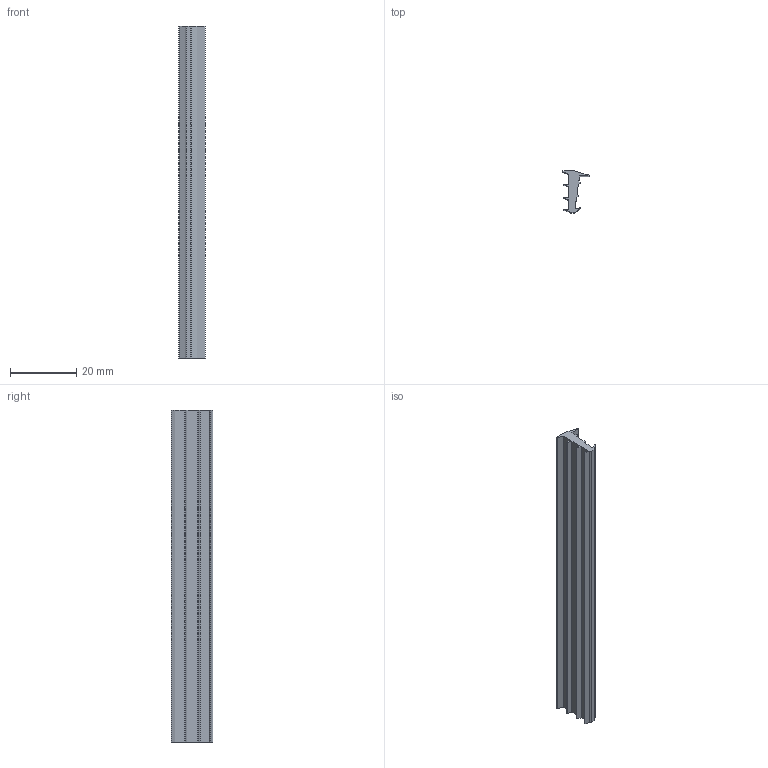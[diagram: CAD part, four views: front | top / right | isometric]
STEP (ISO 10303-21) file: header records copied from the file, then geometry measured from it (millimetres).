
FILE_DESCRIPTION (( 'STEP AP203' ), '1' );
FILE_NAME ('013.512.001.STEP', '2021-03-22T07:22:27', ( '' ), ( '' ), 'SwSTEP 2.0', 'SolidWorks 2018', '' );
FILE_SCHEMA (( 'CONFIG_CONTROL_DESIGN' ));
Length unit declared in the file: millimetre
Products named in the file (1): 013.512.001
Bounding box: 8.05 x 12.5 x 100 mm (x, y, z)
Volume: 3802.2 mm3; surface area: 4990.6 mm2
Topology: 1 solids, 1 shells, 39 faces, 111 edges, 74 vertices
Faces by surface type: plane 25, cylinder 14
Entity records: 1350 total; most frequent: CARTESIAN_POINT 225, ORIENTED_EDGE 222, DIRECTION 219, EDGE_CURVE 111, VECTOR 83, LINE 83, VERTEX_POINT 74, AXIS2_PLACEMENT_3D 68
